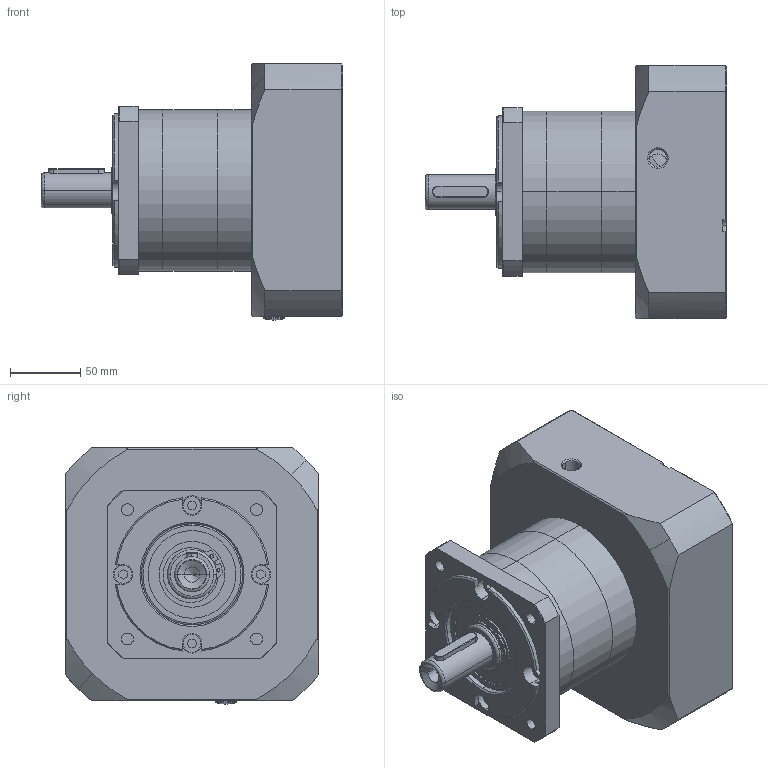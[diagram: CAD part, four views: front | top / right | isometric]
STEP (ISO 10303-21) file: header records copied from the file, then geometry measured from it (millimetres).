
FILE_DESCRIPTION (( 'STEP AP203' ), '1' );
FILE_NAME ('PF115L1-i-P2-S2-35-79-114.3-200-M12.step', '2020-03-23T09:05:36', ( '个人用户' ), ( '微软中国' ), 'SwSTEP 2.0', 'SolidWorks 2018', '' );
FILE_SCHEMA (( 'CONFIG_CONTROL_DESIGN' ));
Length unit declared in the file: millimetre
Products named in the file (1): PF115L1-i-P2-S2-35-79-114.3-200-M12
Bounding box: 214.5 x 180 x 182.3 mm (x, y, z)
Volume: 2408395.9 mm3; surface area: 368097.5 mm2
Topology: 31 solids, 31 shells, 1039 faces, 2431 edges, 1542 vertices
Faces by surface type: cylinder 345, plane 287, sphere 178, torus 116, cone 109, bspline 4
Entity records: 36199 total; most frequent: CARTESIAN_POINT 11722, DIRECTION 5468, ORIENTED_EDGE 4830, EDGE_CURVE 2415, AXIS2_PLACEMENT_3D 2350, VERTEX_POINT 1542, CIRCLE 1314, EDGE_LOOP 1237
